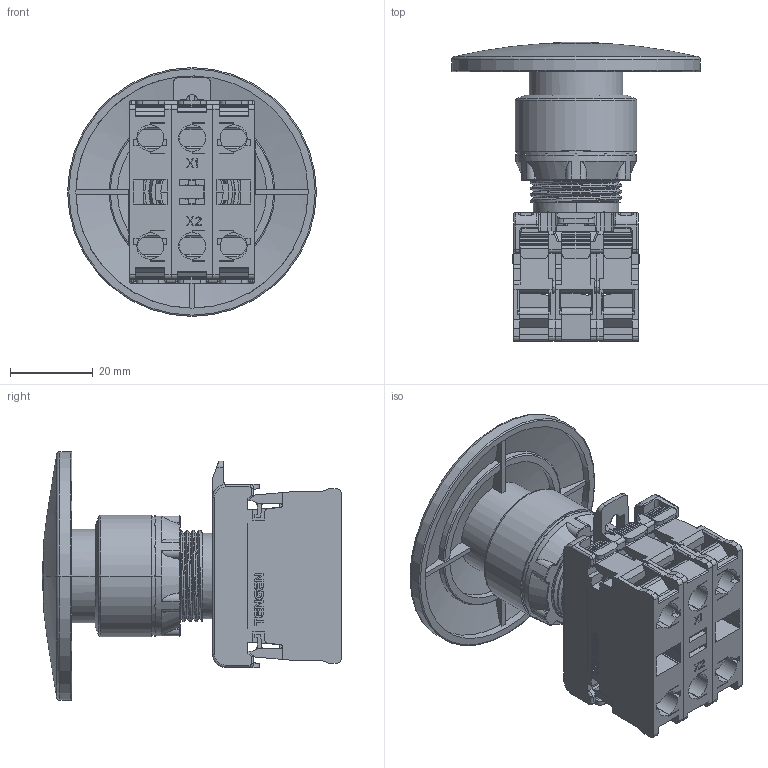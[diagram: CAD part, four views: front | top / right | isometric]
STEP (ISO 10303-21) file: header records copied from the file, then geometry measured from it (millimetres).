
FILE_DESCRIPTION (( 'STEP AP214' ), '1' );
FILE_NAME ('TGLA1-M.stp', '2026-05-15T09:00:31', ( '' ), ( '' ), 'SwSTEP 2.0', 'SolidWorks 2024', '' );
FILE_SCHEMA (( 'AUTOMOTIVE_DESIGN' ));
Length unit declared in the file: millimetre
Products named in the file (1): TGLA1-M
Bounding box: 60 x 72.19 x 60 mm (x, y, z)
Volume: 32518.2 mm3; surface area: 43500.2 mm2
Topology: 2 solids, 2 shells, 2786 faces, 8037 edges, 5250 vertices
Faces by surface type: plane 1515, cylinder 801, bspline 229, cone 159, torus 64, sphere 18
Entity records: 104054 total; most frequent: CARTESIAN_POINT 31522, ORIENTED_EDGE 16066, DIRECTION 14134, EDGE_CURVE 8033, VERTEX_POINT 5250, VECTOR 5128, LINE 5128, AXIS2_PLACEMENT_3D 4503
